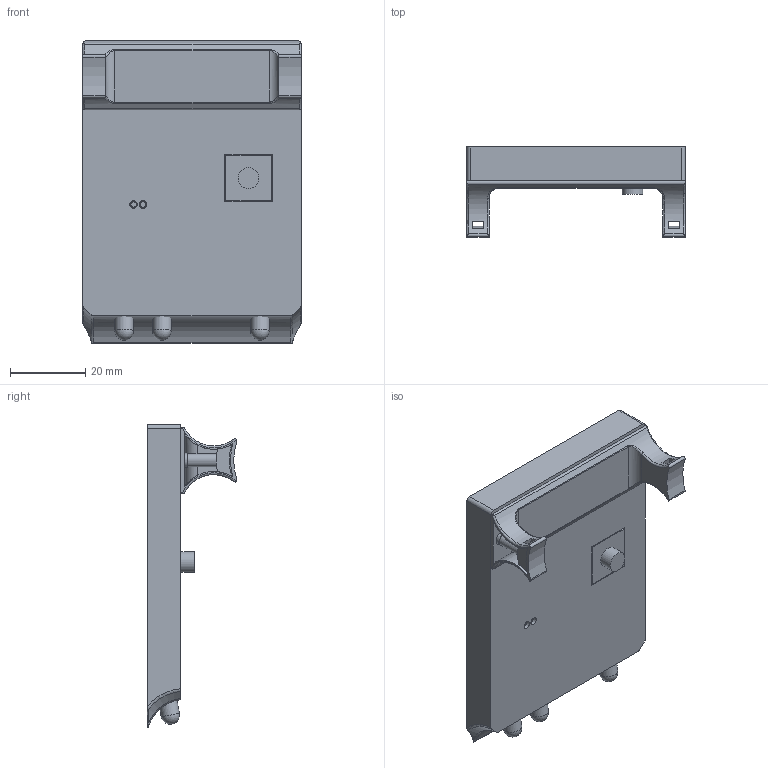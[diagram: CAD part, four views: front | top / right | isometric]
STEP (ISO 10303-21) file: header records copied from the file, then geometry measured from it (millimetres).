
FILE_DESCRIPTION(/* description */ ('Unknown'),/* implementation_level */ '2;1');
FILE_NAME(/* name */ 'BikeLight_Front_Race',/* time_stamp */ '2020-06-24T22:58:56+02:00',/* author */ ('Unknown'),/* organization */ ('Unknown'),/* preprocessor_version */ 'ST-DEVELOPER v16.7',/* originating_system */ 'Solid Edge',/* authorisation */ 'Unknown');
FILE_SCHEMA (('AUTOMOTIVE_DESIGN {1 0 10303 214 3 1 1}'));
Length unit declared in the file: millimetre
Products named in the file (8): BikeLight_Front_Race; Li_Battery_3.7V_240mAh; SolarPanel_6V_0.5W; Mobile_Charger_PCB_New; Holder_light_front3LED_Race; switch_12x12x9; LED_front; Holder_light_front_Race32_adapter
Assembly tree (7 placements, depth 2):
  BikeLight_Front_Race
    Li_Battery_3.7V_240mAh
    SolarPanel_6V_0.5W
    Mobile_Charger_PCB_New
    Holder_light_front3LED_Race
    switch_12x12x9
    LED_front
    Holder_light_front_Race32_adapter
Bounding box: 58 x 23.86 x 80.36 mm (x, y, z)
Volume: 25858.2 mm3; surface area: 31554.6 mm2
Topology: 9 solids, 9 shells, 207 faces, 513 edges, 338 vertices
Faces by surface type: plane 119, cylinder 65, torus 12, bspline 6, sphere 3, cone 2
Full cylindrical faces by diameter (mm): 1.5 x2, 1.75 x2, 1.8 x2, 2 x4, 3.45 x2, 3.5 x3, 3.7 x2, 4.9 x3, 5.5 x1, 5.9 x3
Entity records: 6364 total; most frequent: CARTESIAN_POINT 1314, DIRECTION 1012, ORIENTED_EDGE 946, EDGE_CURVE 473, AXIS2_PLACEMENT_3D 377, VERTEX_POINT 325, EDGE_LOOP 270, FACE_BOUND 270
